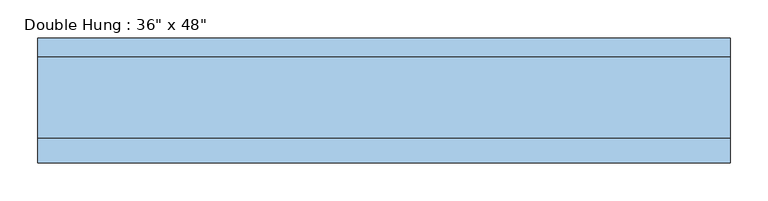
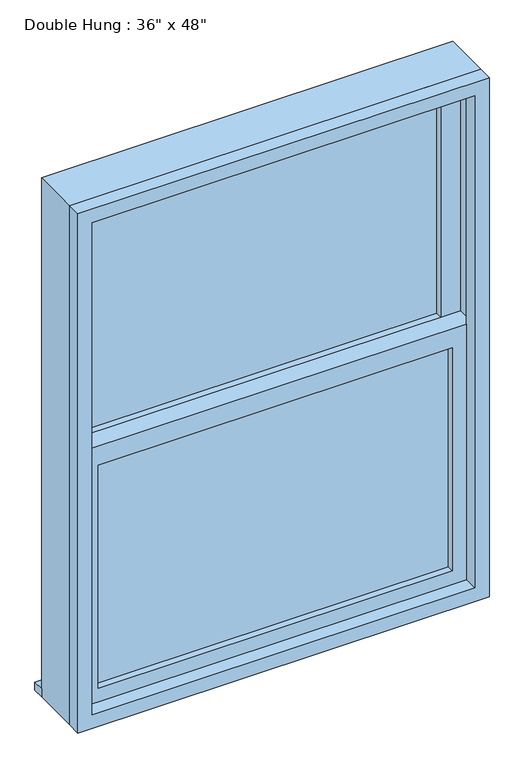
"""IFC4 building model written with IfcOpenShell, lengths in millimetres: window geometry."""

from ifc_helpers import new_model, si_unit, frame, origin, place, context, project, spatial, polyline, outline, extrude, source, transform, mapped, element, save


def window_0abbe968(model_context):
    return source(origin(), model_context, "Body", "SweptSolid", [
        extrude(outline(polyline([(-393.7, -9.375), (393.7, -9.375), (393.7, -22.075), (-393.7, -22.075), (-393.7, -9.375)])), frame((0.0, 0.0, 977.9), z_axis=(0.0, 0.0, 1.0), x_axis=(1.0, 0.0, 0.0)), (0.0, 0.0, 1.0), 523.875),
        extrude(outline(polyline([(1546.225, -438.15), (933.45, -438.15), (933.45, 438.15), (1546.225, 438.15), (1546.225, -438.15)]), holes=[polyline([(1501.775, -393.7), (1501.775, 393.7), (977.9, 393.7), (977.9, -393.7), (1501.775, -393.7)])]), frame((0.0, -37.95, 0.0), z_axis=(0.0, 1.0, 0.0), x_axis=(0.0, 0.0, 1.0)), (0.0, 0.0, 1.0), 44.45),
        extrude(outline(polyline([(-457.2, 95.4), (457.2, 95.4), (457.2, 70.0), (-457.2, 70.0), (-457.2, 95.4)])), frame((0.0, 0.0, 914.4), z_axis=(0.0, 0.0, 1.0), x_axis=(1.0, 0.0, 0.0)), (0.0, 0.0, 1.0), 19.05),
        extrude(outline(polyline([(393.7, 22.375), (-393.7, 22.375), (-393.7, 35.075), (393.7, 35.075), (393.7, 22.375)])), frame((0.0, 0.0, 1546.225), z_axis=(0.0, 0.0, 1.0), x_axis=(1.0, 0.0, 0.0)), (0.0, 0.0, 1.0), 523.875),
        extrude(outline(polyline([(2114.55, -438.15), (1501.775, -438.15), (1501.775, 438.15), (2114.55, 438.15), (2114.55, -438.15)]), holes=[polyline([(2070.1, -393.7), (2070.1, 393.7), (1546.225, 393.7), (1546.225, -393.7), (2070.1, -393.7)])]), frame((0.0, 6.5, 0.0), z_axis=(0.0, 1.0, 0.0), x_axis=(0.0, 0.0, 1.0)), (0.0, 0.0, 1.0), 44.45),
        extrude(outline(polyline([(2133.6, -457.2), (914.4, -457.2), (914.4, 457.2), (2133.6, 457.2), (2133.6, -457.2)]), holes=[polyline([(2101.85, -425.45), (2101.85, 425.45), (946.15, 425.45), (946.15, -425.45), (2101.85, -425.45)])]), frame((0.0, -70.0, 0.0), z_axis=(0.0, 1.0, 0.0), x_axis=(0.0, 0.0, 1.0)), (0.0, 0.0, 1.0), 32.05),
        extrude(outline(polyline([(2133.6, 457.2), (2133.6, -457.2), (914.4, -457.2), (914.4, 457.2), (2133.6, 457.2)]), holes=[polyline([(2114.55, 438.15), (933.45, 438.15), (933.45, -438.15), (2114.55, -438.15), (2114.55, 438.15)])]), frame((0.0, -37.95, 0.0), z_axis=(0.0, 1.0, 0.0), x_axis=(0.0, 0.0, 1.0)), (0.0, 0.0, 1.0), 107.95),
    ])


if __name__ == "__main__":
    model = new_model("IFC4")
    model_context = context("Model", 3, world=origin())
    ifc_project = project(units=[si_unit("LENGTHUNIT", "METRE", prefix="MILLI")], contexts=[model_context])
    site = spatial("IfcSite", under=ifc_project)
    building = spatial("IfcBuilding", under=site)
    placement = place(None, origin())
    window_shape = window_0abbe968(model_context)
    element("IfcWindow", 1, ObjectType="Double Hung : 36\" x 48\"", at=placement, inside=building, context=model_context, shape_type="MappedRepresentation", body=[
        mapped(window_shape, transform((0.0, 0.0, 0.0), x_axis=(1.0, 0.0, 0.0), y_axis=(0.0, 1.0, 0.0), z_axis=(0.0, 0.0, 1.0))),
    ])
    save(model, "model.ifc")
